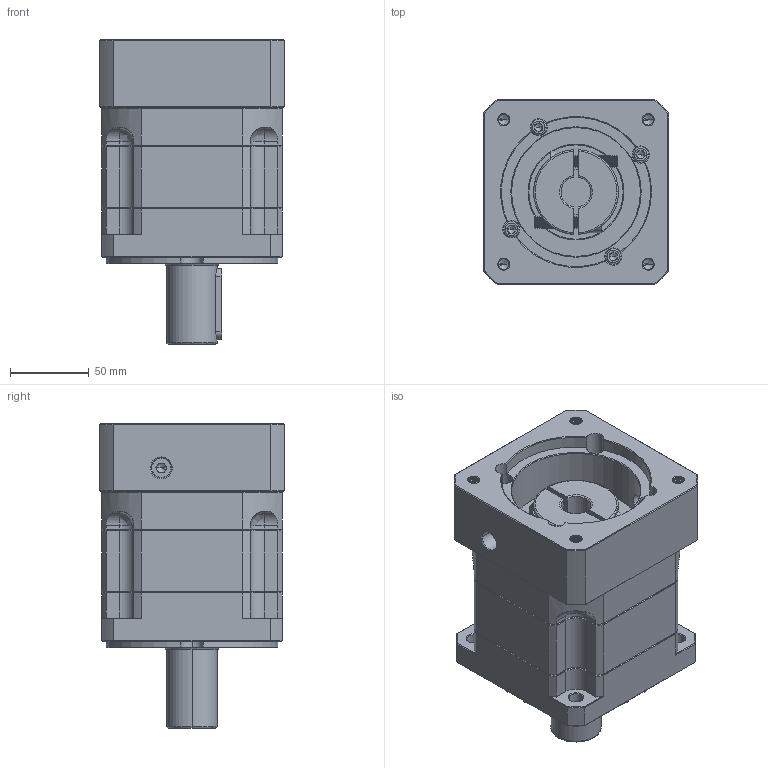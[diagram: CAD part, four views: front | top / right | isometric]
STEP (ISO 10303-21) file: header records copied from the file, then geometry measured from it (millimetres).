
FILE_DESCRIPTION (( 'STEP AP214' ), '1' );
FILE_NAME ('ZB115A-D32-L1-19-95-130-M8.step', '2023-03-02T08:59:41', ( '' ), ( 'Microsoft' ), 'SwSTEP 2.0', 'SolidWorks 2016', '' );
FILE_SCHEMA (( 'AUTOMOTIVE_DESIGN' ));
Length unit declared in the file: millimetre
Products named in the file (1): ZB115A-D32-L1-19-95-130-M8
Bounding box: 118 x 118 x 193.5 mm (x, y, z)
Volume: 1580453.1 mm3; surface area: 170355.6 mm2
Topology: 6 solids, 6 shells, 2125 faces, 5503 edges, 3469 vertices
Faces by surface type: plane 964, cylinder 444, cone 372, bspline 325, torus 20
Entity records: 113959 total; most frequent: CARTESIAN_POINT 41597, ORIENTED_EDGE 10938, DIRECTION 8980, EDGE_CURVE 5469, VERTEX_POINT 3469, LINE 3382, VECTOR 3382, AXIS2_PLACEMENT_3D 2799
